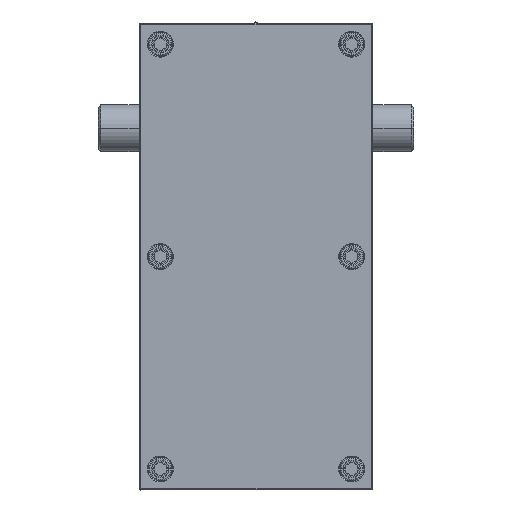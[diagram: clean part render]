
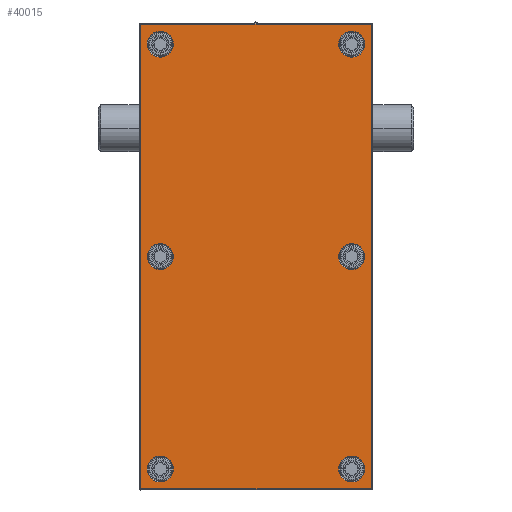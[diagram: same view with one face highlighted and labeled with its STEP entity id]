
A CAD part, front view. The second image highlights one B-rep face of the part: STEP entity #40015.
In plain terms, the highlighted planar face has unit normal (0, -1, 0).
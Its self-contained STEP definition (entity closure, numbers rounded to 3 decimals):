
#38632=CARTESIAN_POINT('',(99.,-7.,-49.));
#38633=DIRECTION('',(0.,-1.,0.));
#38634=DIRECTION('',(0.,0.,-1.));
#38635=AXIS2_PLACEMENT_3D('',#38632,#38633,#38634);
#38637=DIRECTION('',(1.,0.,0.));
#38638=VECTOR('',#38637,198.);
#38639=CARTESIAN_POINT('',(-99.,-7.,
-49.5));
#38640=LINE('',#38639,#38638);
#38641=CARTESIAN_POINT('',(-99.,-7.,-49.));
#38642=DIRECTION('',(0.,-1.,0.));
#38643=DIRECTION('',(-1.,0.,0.));
#38644=AXIS2_PLACEMENT_3D('',#38641,#38642,#38643);
#38646=DIRECTION('',(0.,0.,-1.));
#38647=VECTOR('',#38646,98.);
#38648=CARTESIAN_POINT('',(-99.5,-7.,
49.));
#38649=LINE('',#38648,#38647);
#38650=CARTESIAN_POINT('',(-99.,-7.,49.));
#38651=DIRECTION('',(0.,-1.,0.));
#38652=DIRECTION('',(0.,0.,1.));
#38653=AXIS2_PLACEMENT_3D('',#38650,#38651,#38652);
#38655=DIRECTION('',(-1.,0.,0.));
#38656=VECTOR('',#38655,198.);
#38657=CARTESIAN_POINT('',(99.,-7.,
49.5));
#38658=LINE('',#38657,#38656);
#38659=CARTESIAN_POINT('',(99.,-7.,49.));
#38660=DIRECTION('',(0.,-1.,0.));
#38661=DIRECTION('',(1.,0.,0.));
#38662=AXIS2_PLACEMENT_3D('',#38659,#38660,#38661);
#38664=DIRECTION('',(0.,0.,1.));
#38665=VECTOR('',#38664,98.);
#38666=CARTESIAN_POINT('',(99.5,-7.,
-49.));
#38667=LINE('',#38666,#38665);
#38668=CARTESIAN_POINT('',(-91.,-7.,-41.));
#38669=DIRECTION('',(0.,1.,0.));
#38670=DIRECTION('',(1.,0.,0.));
#38671=AXIS2_PLACEMENT_3D('',#38668,#38669,#38670);
#38673=CARTESIAN_POINT('',(-91.,-7.,-41.));
#38674=DIRECTION('',(0.,1.,0.));
#38675=DIRECTION('',(-1.,0.,0.));
#38676=AXIS2_PLACEMENT_3D('',#38673,#38674,#38675);
#38678=CARTESIAN_POINT('',(0.,-7.,-41.));
#38679=DIRECTION('',(0.,1.,0.));
#38680=DIRECTION('',(1.,0.,0.));
#38681=AXIS2_PLACEMENT_3D('',#38678,#38679,#38680);
#38683=CARTESIAN_POINT('',(0.,-7.,-41.));
#38684=DIRECTION('',(0.,1.,0.));
#38685=DIRECTION('',(-1.,0.,0.));
#38686=AXIS2_PLACEMENT_3D('',#38683,#38684,#38685);
#38688=CARTESIAN_POINT('',(91.,-7.,-41.));
#38689=DIRECTION('',(0.,1.,0.));
#38690=DIRECTION('',(1.,0.,0.));
#38691=AXIS2_PLACEMENT_3D('',#38688,#38689,#38690);
#38693=CARTESIAN_POINT('',(91.,-7.,-41.));
#38694=DIRECTION('',(0.,1.,0.));
#38695=DIRECTION('',(-1.,0.,0.));
#38696=AXIS2_PLACEMENT_3D('',#38693,#38694,#38695);
#38698=CARTESIAN_POINT('',(91.,-7.,41.));
#38699=DIRECTION('',(0.,1.,0.));
#38700=DIRECTION('',(1.,0.,0.));
#38701=AXIS2_PLACEMENT_3D('',#38698,#38699,#38700);
#38703=CARTESIAN_POINT('',(91.,-7.,41.));
#38704=DIRECTION('',(0.,1.,0.));
#38705=DIRECTION('',(-1.,0.,0.));
#38706=AXIS2_PLACEMENT_3D('',#38703,#38704,#38705);
#38708=CARTESIAN_POINT('',(0.,-7.,41.));
#38709=DIRECTION('',(0.,1.,0.));
#38710=DIRECTION('',(1.,0.,0.));
#38711=AXIS2_PLACEMENT_3D('',#38708,#38709,#38710);
#38713=CARTESIAN_POINT('',(0.,-7.,41.));
#38714=DIRECTION('',(0.,1.,0.));
#38715=DIRECTION('',(-1.,0.,0.));
#38716=AXIS2_PLACEMENT_3D('',#38713,#38714,#38715);
#38718=CARTESIAN_POINT('',(-91.,-7.,41.));
#38719=DIRECTION('',(0.,1.,0.));
#38720=DIRECTION('',(1.,0.,0.));
#38721=AXIS2_PLACEMENT_3D('',#38718,#38719,#38720);
#38723=CARTESIAN_POINT('',(-91.,-7.,41.));
#38724=DIRECTION('',(0.,1.,0.));
#38725=DIRECTION('',(-1.,0.,0.));
#38726=AXIS2_PLACEMENT_3D('',#38723,#38724,#38725);
#39756=CARTESIAN_POINT('',(99.,-7.,-49.5));
#39757=CARTESIAN_POINT('',(99.5,-7.,-49.));
#39758=VERTEX_POINT('',#39756);
#39759=VERTEX_POINT('',#39757);
#39764=CARTESIAN_POINT('',(99.5,-7.,
49.));
#39765=VERTEX_POINT('',#39764);
#39768=CARTESIAN_POINT('',(99.,-7.,49.5));
#39769=VERTEX_POINT('',#39768);
#39772=CARTESIAN_POINT('',(-99.,-7.,
49.5));
#39773=VERTEX_POINT('',#39772);
#39776=CARTESIAN_POINT('',(-99.5,-7.,49.));
#39777=VERTEX_POINT('',#39776);
#39780=CARTESIAN_POINT('',(-99.5,-7.,
-49.));
#39781=VERTEX_POINT('',#39780);
#39784=CARTESIAN_POINT('',(-99.,-7.,-49.5));
#39785=VERTEX_POINT('',#39784);
#39812=CARTESIAN_POINT('',(-85.45,-7.,-41.));
#39813=CARTESIAN_POINT('',(-96.55,-7.,-41.));
#39814=VERTEX_POINT('',#39812);
#39815=VERTEX_POINT('',#39813);
#39828=CARTESIAN_POINT('',(5.55,-7.,-41.));
#39829=CARTESIAN_POINT('',(-5.55,-7.,-41.));
#39830=VERTEX_POINT('',#39828);
#39831=VERTEX_POINT('',#39829);
#39852=CARTESIAN_POINT('',(96.55,-7.,-41.));
#39853=CARTESIAN_POINT('',(85.45,-7.,-41.));
#39854=VERTEX_POINT('',#39852);
#39855=VERTEX_POINT('',#39853);
#39868=CARTESIAN_POINT('',(96.55,-7.,41.));
#39869=CARTESIAN_POINT('',(85.45,-7.,41.));
#39870=VERTEX_POINT('',#39868);
#39871=VERTEX_POINT('',#39869);
#39876=CARTESIAN_POINT('',(5.55,-7.,41.));
#39877=CARTESIAN_POINT('',(-5.55,-7.,41.));
#39878=VERTEX_POINT('',#39876);
#39879=VERTEX_POINT('',#39877);
#39900=CARTESIAN_POINT('',(-85.45,-7.,41.));
#39901=CARTESIAN_POINT('',(-96.55,-7.,41.));
#39902=VERTEX_POINT('',#39900);
#39903=VERTEX_POINT('',#39901);
#39956=CARTESIAN_POINT('',(0.,-7.,0.));
#39957=DIRECTION('',(0.,1.,0.));
#39958=DIRECTION('',(1.,0.,0.));
#39959=AXIS2_PLACEMENT_3D('',#39956,#39957,#39958);
#39960=PLANE('',#39959);
#39962=ORIENTED_EDGE('',*,*,#39961,.F.);
#39964=ORIENTED_EDGE('',*,*,#39963,.F.);
#39966=ORIENTED_EDGE('',*,*,#39965,.F.);
#39968=ORIENTED_EDGE('',*,*,#39967,.F.);
#39970=ORIENTED_EDGE('',*,*,#39969,.F.);
#39972=ORIENTED_EDGE('',*,*,#39971,.F.);
#39974=ORIENTED_EDGE('',*,*,#39973,.F.);
#39976=ORIENTED_EDGE('',*,*,#39975,.F.);
#39977=EDGE_LOOP('',(#39962,#39964,#39966,#39968,#39970,#39972,#39974,#39976));
#39978=FACE_OUTER_BOUND('',#39977,.F.);
#39980=ORIENTED_EDGE('',*,*,#39979,.F.);
#39982=ORIENTED_EDGE('',*,*,#39981,.F.);
#39983=EDGE_LOOP('',(#39980,#39982));
#39984=FACE_BOUND('',#39983,.F.);
#39986=ORIENTED_EDGE('',*,*,#39985,.F.);
#39988=ORIENTED_EDGE('',*,*,#39987,.F.);
#39989=EDGE_LOOP('',(#39986,#39988));
#39990=FACE_BOUND('',#39989,.F.);
#39992=ORIENTED_EDGE('',*,*,#39991,.F.);
#39994=ORIENTED_EDGE('',*,*,#39993,.F.);
#39995=EDGE_LOOP('',(#39992,#39994));
#39996=FACE_BOUND('',#39995,.F.);
#39998=ORIENTED_EDGE('',*,*,#39997,.F.);
#40000=ORIENTED_EDGE('',*,*,#39999,.F.);
#40001=EDGE_LOOP('',(#39998,#40000));
#40002=FACE_BOUND('',#40001,.F.);
#40004=ORIENTED_EDGE('',*,*,#40003,.F.);
#40006=ORIENTED_EDGE('',*,*,#40005,.F.);
#40007=EDGE_LOOP('',(#40004,#40006));
#40008=FACE_BOUND('',#40007,.F.);
#40010=ORIENTED_EDGE('',*,*,#40009,.F.);
#40012=ORIENTED_EDGE('',*,*,#40011,.F.);
#40013=EDGE_LOOP('',(#40010,#40012));
#40014=FACE_BOUND('',#40013,.F.);
#40015=ADVANCED_FACE('',(#39978,#39984,#39990,#39996,#40002,#40008,#40014),
#39960,.F.);
#38636=CIRCLE('',#38635,0.5);
#38645=CIRCLE('',#38644,0.5);
#38654=CIRCLE('',#38653,0.5);
#38663=CIRCLE('',#38662,0.5);
#38672=CIRCLE('',#38671,5.55);
#38677=CIRCLE('',#38676,5.55);
#38682=CIRCLE('',#38681,5.55);
#38687=CIRCLE('',#38686,5.55);
#38692=CIRCLE('',#38691,5.55);
#38697=CIRCLE('',#38696,5.55);
#38702=CIRCLE('',#38701,5.55);
#38707=CIRCLE('',#38706,5.55);
#38712=CIRCLE('',#38711,5.55);
#38717=CIRCLE('',#38716,5.55);
#38722=CIRCLE('',#38721,5.55);
#38727=CIRCLE('',#38726,5.55);
#39961=EDGE_CURVE('',#39758,#39759,#38636,.T.);
#39963=EDGE_CURVE('',#39785,#39758,#38640,.T.);
#39965=EDGE_CURVE('',#39781,#39785,#38645,.T.);
#39967=EDGE_CURVE('',#39777,#39781,#38649,.T.);
#39969=EDGE_CURVE('',#39773,#39777,#38654,.T.);
#39971=EDGE_CURVE('',#39769,#39773,#38658,.T.);
#39973=EDGE_CURVE('',#39765,#39769,#38663,.T.);
#39975=EDGE_CURVE('',#39759,#39765,#38667,.T.);
#39979=EDGE_CURVE('',#39814,#39815,#38672,.T.);
#39981=EDGE_CURVE('',#39815,#39814,#38677,.T.);
#39985=EDGE_CURVE('',#39830,#39831,#38682,.T.);
#39987=EDGE_CURVE('',#39831,#39830,#38687,.T.);
#39991=EDGE_CURVE('',#39854,#39855,#38692,.T.);
#39993=EDGE_CURVE('',#39855,#39854,#38697,.T.);
#39997=EDGE_CURVE('',#39870,#39871,#38702,.T.);
#39999=EDGE_CURVE('',#39871,#39870,#38707,.T.);
#40003=EDGE_CURVE('',#39878,#39879,#38712,.T.);
#40005=EDGE_CURVE('',#39879,#39878,#38717,.T.);
#40009=EDGE_CURVE('',#39902,#39903,#38722,.T.);
#40011=EDGE_CURVE('',#39903,#39902,#38727,.T.);
